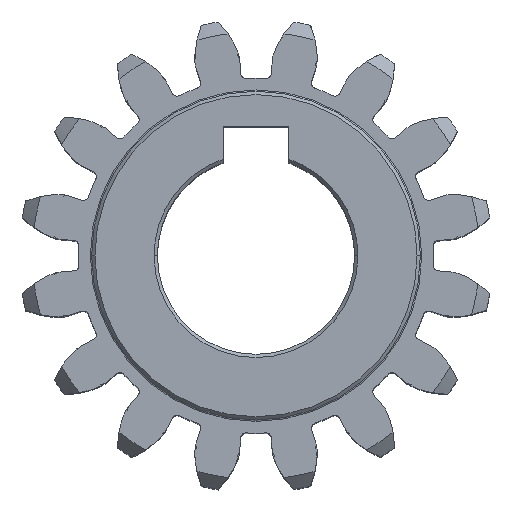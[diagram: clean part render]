
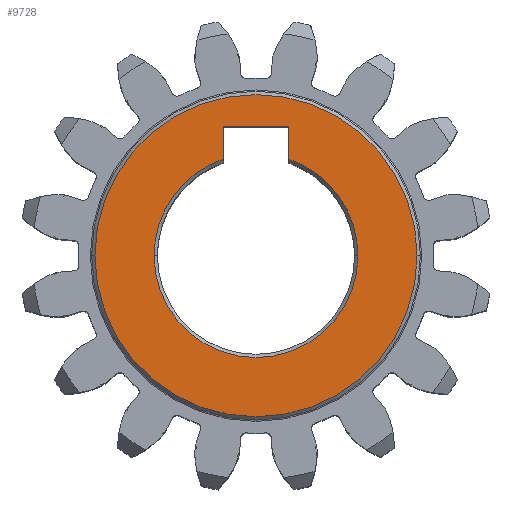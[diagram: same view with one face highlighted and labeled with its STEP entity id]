
A CAD part, top view. The second image highlights one B-rep face of the part: STEP entity #9728.
In plain terms, the highlighted planar face has unit normal (0, 0, 1).
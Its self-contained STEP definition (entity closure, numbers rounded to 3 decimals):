
#17 = CARTESIAN_POINT ( 'NONE',  ( 12.25, 0., 15. ) ) ;
#139 = CARTESIAN_POINT ( 'NONE',  ( 0., 0., 15. ) ) ;
#451 = EDGE_LOOP ( 'NONE', ( #848, #4020, #2501, #4026, #3721, #4725 ) ) ;
#530 = CARTESIAN_POINT ( 'NONE',  ( 0., 0., 15. ) ) ;
#734 = DIRECTION ( 'NONE',  ( 0., 0., 1. ) ) ;
#781 = CARTESIAN_POINT ( 'NONE',  ( 0., 0., 15. ) ) ;
#794 = DIRECTION ( 'NONE',  ( 0., -1., 0. ) ) ;
#796 = VERTEX_POINT ( 'NONE', #8003 ) ;
#830 = DIRECTION ( 'NONE',  ( 1., 0., 0. ) ) ;
#848 = ORIENTED_EDGE ( 'NONE', *, *, #1273, .T. ) ;
#1273 = EDGE_CURVE ( 'NONE', #8735, #4440, #2233, .T. ) ;
#1305 = CARTESIAN_POINT ( 'NONE',  ( 7.75, 0., 15. ) ) ;
#1309 = DIRECTION ( 'NONE',  ( 1., 0., 0. ) ) ;
#1500 = CARTESIAN_POINT ( 'NONE',  ( -2.5, 5.2, 15. ) ) ;
#1586 = AXIS2_PLACEMENT_3D ( 'NONE', #2125, #5996, #1309 ) ;
#1603 = CIRCLE ( 'NONE', #9515, 7.75 ) ;
#1727 = EDGE_CURVE ( 'NONE', #4440, #5158, #1603, .T. ) ;
#1845 = EDGE_CURVE ( 'NONE', #4060, #10172, #9022, .T. ) ;
#2125 = CARTESIAN_POINT ( 'NONE',  ( 0., 0., 15. ) ) ;
#2233 = LINE ( 'NONE', #7869, #8202 ) ;
#2501 = ORIENTED_EDGE ( 'NONE', *, *, #7200, .T. ) ;
#2507 = CIRCLE ( 'NONE', #5978, 12.25 ) ;
#2617 = DIRECTION ( 'NONE',  ( 0., 0., 1. ) ) ;
#2914 = CARTESIAN_POINT ( 'NONE',  ( 2.5, 7.336, 15. ) ) ;
#2931 = CARTESIAN_POINT ( 'NONE',  ( -12.25, 0., 15. ) ) ;
#2950 = DIRECTION ( 'NONE',  ( 1., 0., 0. ) ) ;
#3721 = ORIENTED_EDGE ( 'NONE', *, *, #6054, .T. ) ;
#4020 = ORIENTED_EDGE ( 'NONE', *, *, #1727, .T. ) ;
#4026 = ORIENTED_EDGE ( 'NONE', *, *, #9927, .T. ) ;
#4060 = VERTEX_POINT ( 'NONE', #17 ) ;
#4069 = DIRECTION ( 'NONE',  ( 0., 0., -1. ) ) ;
#4099 = CIRCLE ( 'NONE', #6082, 7.75 ) ;
#4129 = DIRECTION ( 'NONE',  ( 1., 0., 0. ) ) ;
#4153 = DIRECTION ( 'NONE',  ( 1., 0., 0. ) ) ;
#4195 = VECTOR ( 'NONE', #4129, 1000. ) ;
#4242 = CARTESIAN_POINT ( 'NONE',  ( 2.5, 9.8, 15. ) ) ;
#4387 = CARTESIAN_POINT ( 'NONE',  ( -7.75, 0., 15. ) ) ;
#4440 = VERTEX_POINT ( 'NONE', #2914 ) ;
#4447 = PLANE ( 'NONE',  #8072 ) ;
#4639 = FACE_OUTER_BOUND ( 'NONE', #5311, .T. ) ;
#4648 = CARTESIAN_POINT ( 'NONE',  ( 2.5, 9.8, 15. ) ) ;
#4725 = ORIENTED_EDGE ( 'NONE', *, *, #7121, .T. ) ;
#4986 = DIRECTION ( 'NONE',  ( 1., 0., 0. ) ) ;
#5010 = LINE ( 'NONE', #4242, #4195 ) ;
#5158 = VERTEX_POINT ( 'NONE', #1305 ) ;
#5199 = VERTEX_POINT ( 'NONE', #4387 ) ;
#5311 = EDGE_LOOP ( 'NONE', ( #7207, #10155 ) ) ;
#5978 = AXIS2_PLACEMENT_3D ( 'NONE', #139, #2617, #4986 ) ;
#5996 = DIRECTION ( 'NONE',  ( 0., 0., -1. ) ) ;
#6054 = EDGE_CURVE ( 'NONE', #796, #7505, #7800, .T. ) ;
#6082 = AXIS2_PLACEMENT_3D ( 'NONE', #781, #4069, #830 ) ;
#6291 = DIRECTION ( 'NONE',  ( 0., 1., 0. ) ) ;
#6438 = DIRECTION ( 'NONE',  ( 0., 0., 1. ) ) ;
#6705 = CIRCLE ( 'NONE', #1586, 7.75 ) ;
#7121 = EDGE_CURVE ( 'NONE', #7505, #8735, #5010, .T. ) ;
#7200 = EDGE_CURVE ( 'NONE', #5158, #5199, #6705, .T. ) ;
#7207 = ORIENTED_EDGE ( 'NONE', *, *, #7702, .T. ) ;
#7505 = VERTEX_POINT ( 'NONE', #8886 ) ;
#7702 = EDGE_CURVE ( 'NONE', #10172, #4060, #2507, .T. ) ;
#7800 = LINE ( 'NONE', #1500, #8172 ) ;
#7803 = FACE_BOUND ( 'NONE', #451, .T. ) ;
#7869 = CARTESIAN_POINT ( 'NONE',  ( 2.5, 5.2, 15. ) ) ;
#8003 = CARTESIAN_POINT ( 'NONE',  ( -2.5, 7.336, 15. ) ) ;
#8072 = AXIS2_PLACEMENT_3D ( 'NONE', #530, #734, #9986 ) ;
#8172 = VECTOR ( 'NONE', #6291, 1000. ) ;
#8202 = VECTOR ( 'NONE', #794, 1000. ) ;
#8546 = CARTESIAN_POINT ( 'NONE',  ( 0., 0., 15. ) ) ;
#8735 = VERTEX_POINT ( 'NONE', #4648 ) ;
#8886 = CARTESIAN_POINT ( 'NONE',  ( -2.5, 9.8, 15. ) ) ;
#9022 = CIRCLE ( 'NONE', #9196, 12.25 ) ;
#9196 = AXIS2_PLACEMENT_3D ( 'NONE', #9588, #6438, #4153 ) ;
#9515 = AXIS2_PLACEMENT_3D ( 'NONE', #8546, #10083, #2950 ) ;
#9588 = CARTESIAN_POINT ( 'NONE',  ( 0., 0., 15. ) ) ;
#9728 = ADVANCED_FACE ( 'NONE', ( #4639, #7803 ), #4447, .T. ) ;
#9927 = EDGE_CURVE ( 'NONE', #5199, #796, #4099, .T. ) ;
#9986 = DIRECTION ( 'NONE',  ( 1., 0., 0. ) ) ;
#10083 = DIRECTION ( 'NONE',  ( 0., 0., -1. ) ) ;
#10155 = ORIENTED_EDGE ( 'NONE', *, *, #1845, .T. ) ;
#10172 = VERTEX_POINT ( 'NONE', #2931 ) ;
